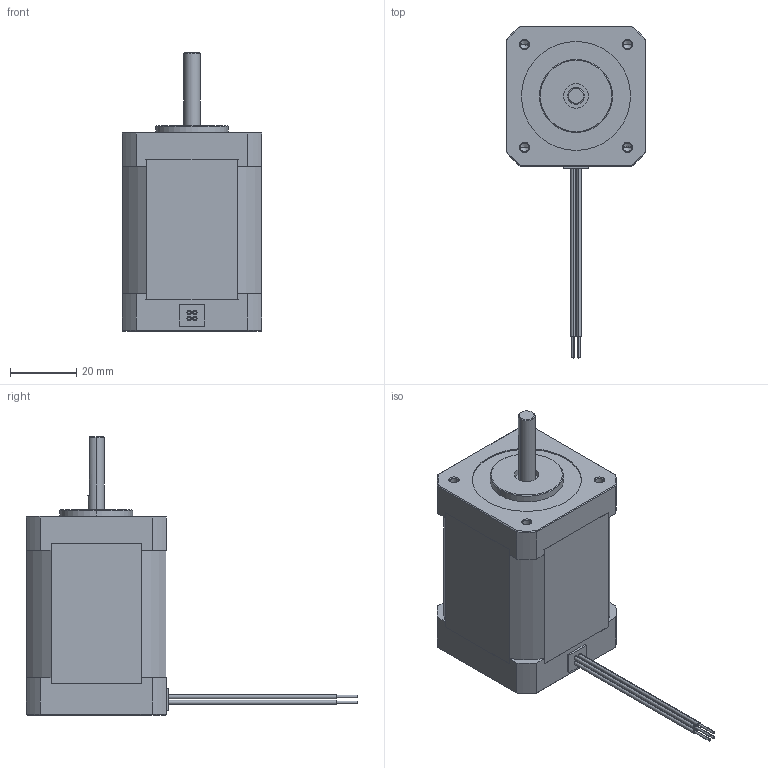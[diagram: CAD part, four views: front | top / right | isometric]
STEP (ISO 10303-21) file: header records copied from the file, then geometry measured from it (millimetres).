
FILE_DESCRIPTION (( 'STEP AP214' ), '1' );
FILE_NAME ('17Y402S-LW4.STEP', '2010-05-11T21:15:49', ( 'Tim Raines' ), ( 'Anaheim Automation' ), 'SwSTEP 2.0', 'SolidWorks 2010', '' );
FILE_SCHEMA (( 'AUTOMOTIVE_DESIGN' ));
Length unit declared in the file: inch
Products named in the file (1): 17Y402S-LW4
Bounding box: 42.16 x 99.95 x 83.82 mm (x, y, z)
Volume: 102927.5 mm3; surface area: 15112.9 mm2
Topology: 1 solids, 1 shells, 232 faces, 549 edges, 344 vertices
Faces by surface type: plane 113, cylinder 72, cone 39, torus 8
Entity records: 9516 total; most frequent: DIRECTION 1182, CARTESIAN_POINT 1172, ORIENTED_EDGE 1082, EDGE_CURVE 541, AXIS2_PLACEMENT_3D 426, VERTEX_POINT 344, LINE 330, VECTOR 330
